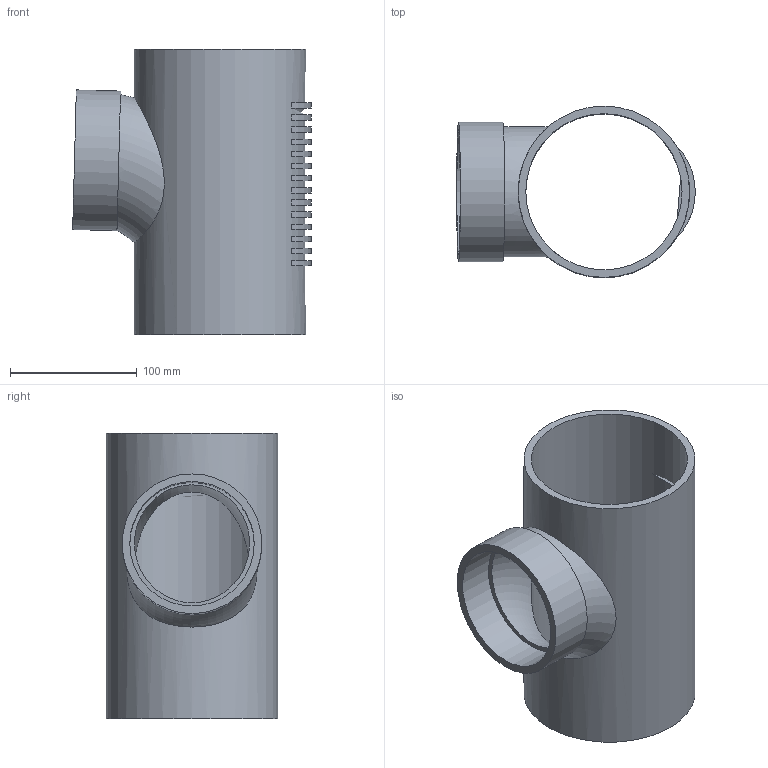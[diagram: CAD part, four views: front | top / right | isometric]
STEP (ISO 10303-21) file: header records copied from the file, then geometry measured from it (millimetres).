
FILE_DESCRIPTION(/* description */ (''),/* implementation_level */ '2;1');
FILE_NAME(/* name */ 'H:\Geberit-Teile\Export\Bogen-Eckabzweig_ART\stp\312109.stp',/* time_stamp */ '2015-03-18T16:21:00+01:00',/* author */ ('seihe2'),/* organization */ (''),/* preprocessor_version */ 'ST-DEVELOPER v15.2',/* originating_system */ 'Autodesk Inventor 2014',/* authorisation */ '');
FILE_SCHEMA (('AUTOMOTIVE_DESIGN { 1 0 10303 214 3 1 1 }'));
Length unit declared in the file: millimetre
Products named in the file (1): 312109
Bounding box: 188.66 x 135.5 x 226 mm (x, y, z)
Volume: 637183.5 mm3; surface area: 221303.3 mm2
Topology: 1 solids, 1 shells, 53 faces, 106 edges, 70 vertices
Faces by surface type: plane 33, cylinder 18, torus 2
Full cylindrical faces by diameter (mm): 98.4 x1, 110.4 x1, 123.5 x1, 135.5 x1
Entity records: 1647 total; most frequent: CARTESIAN_POINT 434, DIRECTION 264, ORIENTED_EDGE 192, AXIS2_PLACEMENT_3D 118, EDGE_CURVE 96, EDGE_LOOP 80, VERTEX_POINT 68, CIRCLE 64
